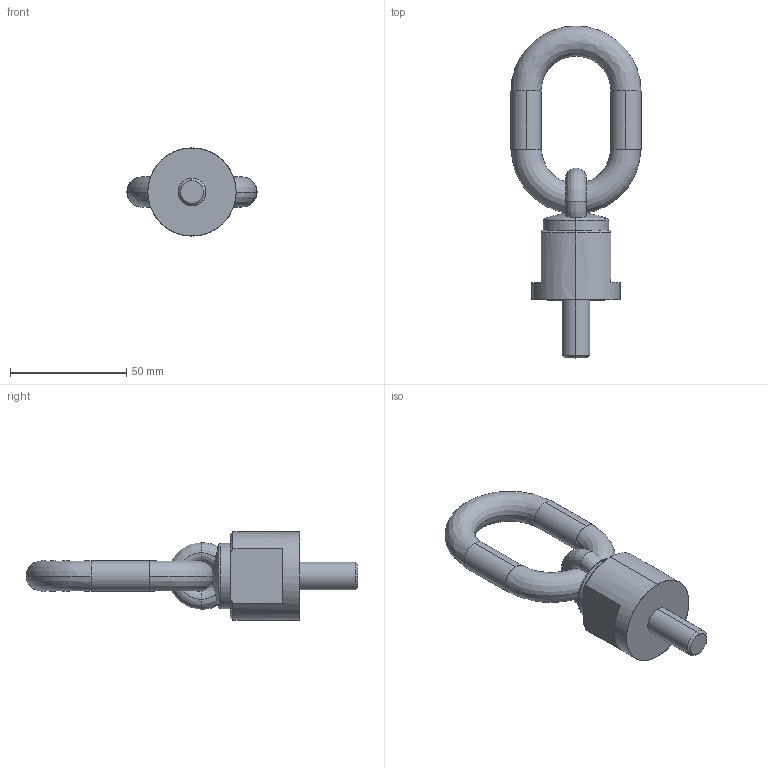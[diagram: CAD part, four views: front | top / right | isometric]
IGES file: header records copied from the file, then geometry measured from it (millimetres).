
Start section: START RECORD GO HERE.
Global section: file name: C8000051225.igs; native system: DASSAULT SYSTEMES CATIA V5 R20 - www.3ds.com; preprocessor: CATIA Version 5 Release 20 ; author: Utente; organization: NB04-ASUS; date: 20200412.162202; units: millimetre
Bounding box: 56 x 143 x 38 mm (x, y, z)
Surface area: 15273.7 mm2 (no closed solid volume)
Topology: 0 solids, 0 shells, 45 faces, 244 edges, 244 vertices
Faces by surface type: revolution 33, extrusion 12
